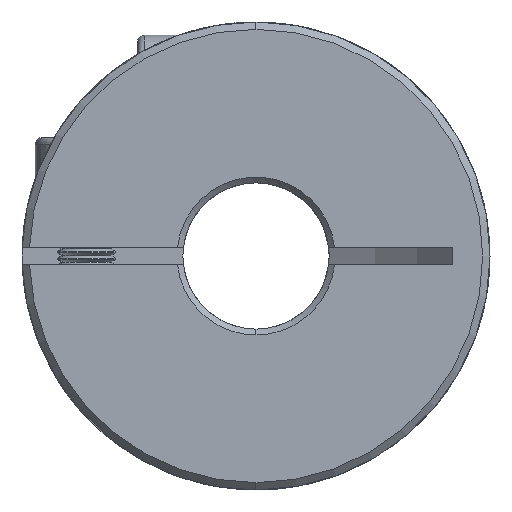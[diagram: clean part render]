
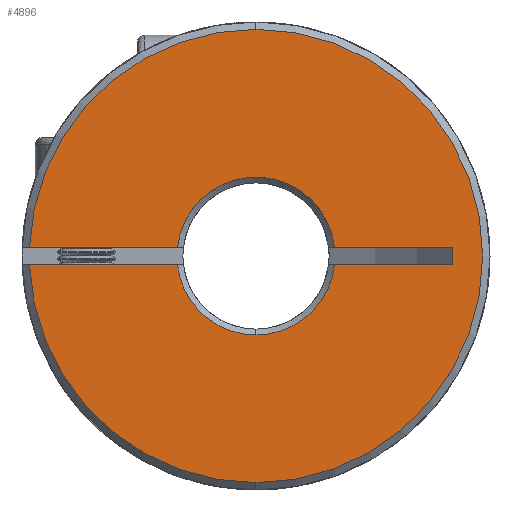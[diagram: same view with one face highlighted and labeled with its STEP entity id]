
A CAD part, front view. The second image highlights one B-rep face of the part: STEP entity #4896.
In plain terms, the highlighted planar face has unit normal (0, -1, 0).
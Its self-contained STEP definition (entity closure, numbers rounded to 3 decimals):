
#16 = VECTOR ( 'NONE', #7219, 1000. ) ;
#29 = CIRCLE ( 'NONE', #2571, 15.5 ) ;
#30 = AXIS2_PLACEMENT_3D ( 'NONE', #6362, #10645, #294 ) ;
#65 = AXIS2_PLACEMENT_3D ( 'NONE', #6336, #3868, #2842 ) ;
#294 = DIRECTION ( 'NONE',  ( 0., 0., 1. ) ) ;
#360 = LINE ( 'NONE', #8693, #3618 ) ;
#400 = DIRECTION ( 'NONE',  ( 1., 0., 0. ) ) ;
#563 = ORIENTED_EDGE ( 'NONE', *, *, #1531, .T. ) ;
#774 = VERTEX_POINT ( 'NONE', #5337 ) ;
#1261 = EDGE_CURVE ( 'NONE', #8618, #774, #6376, .T. ) ;
#1324 = CARTESIAN_POINT ( 'NONE',  ( 5.367, 0., -0.6 ) ) ;
#1353 = CARTESIAN_POINT ( 'NONE',  ( 0., 0., -5.4 ) ) ;
#1389 = AXIS2_PLACEMENT_3D ( 'NONE', #9679, #4510, #3635 ) ;
#1455 = CARTESIAN_POINT ( 'NONE',  ( -15.488, 0., 0.6 ) ) ;
#1520 = EDGE_CURVE ( 'NONE', #3501, #4238, #5464, .T. ) ;
#1531 = EDGE_CURVE ( 'NONE', #6320, #2306, #29, .T. ) ;
#1733 = VERTEX_POINT ( 'NONE', #9352 ) ;
#1826 = DIRECTION ( 'NONE',  ( 0., 1., 0. ) ) ;
#2306 = VERTEX_POINT ( 'NONE', #8651 ) ;
#2344 = VERTEX_POINT ( 'NONE', #10467 ) ;
#2453 = DIRECTION ( 'NONE',  ( 0., 0., 1. ) ) ;
#2558 = EDGE_CURVE ( 'NONE', #9664, #3501, #7881, .T. ) ;
#2571 = AXIS2_PLACEMENT_3D ( 'NONE', #7522, #3279, #2453 ) ;
#2842 = DIRECTION ( 'NONE',  ( 0., 0., 1. ) ) ;
#2874 = EDGE_CURVE ( 'NONE', #10779, #2344, #360, .T. ) ;
#3000 = LINE ( 'NONE', #10714, #16 ) ;
#3058 = ORIENTED_EDGE ( 'NONE', *, *, #2874, .F. ) ;
#3104 = ORIENTED_EDGE ( 'NONE', *, *, #11048, .F. ) ;
#3279 = DIRECTION ( 'NONE',  ( 0., -1., 0. ) ) ;
#3288 = CARTESIAN_POINT ( 'NONE',  ( 0., 0., 0. ) ) ;
#3501 = VERTEX_POINT ( 'NONE', #5680 ) ;
#3521 = AXIS2_PLACEMENT_3D ( 'NONE', #3288, #8343, #11037 ) ;
#3618 = VECTOR ( 'NONE', #8733, 1000. ) ;
#3635 = DIRECTION ( 'NONE',  ( 0., 0., 1. ) ) ;
#3868 = DIRECTION ( 'NONE',  ( 0., 1., 0. ) ) ;
#4069 = CARTESIAN_POINT ( 'NONE',  ( -50., 0., 0.6 ) ) ;
#4238 = VERTEX_POINT ( 'NONE', #6479 ) ;
#4391 = DIRECTION ( 'NONE',  ( 0., 0., 1. ) ) ;
#4481 = ORIENTED_EDGE ( 'NONE', *, *, #1261, .T. ) ;
#4510 = DIRECTION ( 'NONE',  ( 0., -1., 0. ) ) ;
#4630 = DIRECTION ( 'NONE',  ( 1., 0., 0. ) ) ;
#4787 = FACE_OUTER_BOUND ( 'NONE', #5832, .T. ) ;
#4896 = ADVANCED_FACE ( 'NONE', ( #4787 ), #7862, .F. ) ;
#4991 = CARTESIAN_POINT ( 'NONE',  ( 0., 0., 0. ) ) ;
#5057 = DIRECTION ( 'NONE',  ( 1., 0., 0. ) ) ;
#5337 = CARTESIAN_POINT ( 'NONE',  ( -5.367, 0., -0.6 ) ) ;
#5464 = LINE ( 'NONE', #4069, #9192 ) ;
#5519 = ORIENTED_EDGE ( 'NONE', *, *, #6725, .T. ) ;
#5665 = VECTOR ( 'NONE', #400, 1000. ) ;
#5680 = CARTESIAN_POINT ( 'NONE',  ( 5.367, 0., 0.6 ) ) ;
#5822 = VERTEX_POINT ( 'NONE', #1455 ) ;
#5832 = EDGE_LOOP ( 'NONE', ( #3104, #10133, #563, #10105, #8243, #8864, #9418, #5519, #3058, #6996, #4481 ) ) ;
#5933 = AXIS2_PLACEMENT_3D ( 'NONE', #6999, #1826, #4391 ) ;
#6106 = EDGE_CURVE ( 'NONE', #10779, #8618, #6365, .T. ) ;
#6189 = AXIS2_PLACEMENT_3D ( 'NONE', #4991, #8268, #6708 ) ;
#6320 = VERTEX_POINT ( 'NONE', #8269 ) ;
#6336 = CARTESIAN_POINT ( 'NONE',  ( 0., 0., 0. ) ) ;
#6362 = CARTESIAN_POINT ( 'NONE',  ( 0., 0., 0. ) ) ;
#6365 = CIRCLE ( 'NONE', #65, 5.4 ) ;
#6376 = CIRCLE ( 'NONE', #30, 5.4 ) ;
#6479 = CARTESIAN_POINT ( 'NONE',  ( 13.436, 0., 0.6 ) ) ;
#6708 = DIRECTION ( 'NONE',  ( 0., 0., 1. ) ) ;
#6725 = EDGE_CURVE ( 'NONE', #4238, #2344, #3000, .T. ) ;
#6996 = ORIENTED_EDGE ( 'NONE', *, *, #6106, .T. ) ;
#6999 = CARTESIAN_POINT ( 'NONE',  ( -50., 0., -18.413 ) ) ;
#7219 = DIRECTION ( 'NONE',  ( 0., 0., -1. ) ) ;
#7252 = CARTESIAN_POINT ( 'NONE',  ( -50., 0., -0.6 ) ) ;
#7370 = EDGE_CURVE ( 'NONE', #5822, #9664, #9021, .T. ) ;
#7406 = CIRCLE ( 'NONE', #1389, 15.5 ) ;
#7522 = CARTESIAN_POINT ( 'NONE',  ( 0., 0., 0. ) ) ;
#7862 = PLANE ( 'NONE',  #5933 ) ;
#7881 = CIRCLE ( 'NONE', #6189, 5.4 ) ;
#8036 = CIRCLE ( 'NONE', #3521, 15.5 ) ;
#8213 = VECTOR ( 'NONE', #4630, 1000. ) ;
#8243 = ORIENTED_EDGE ( 'NONE', *, *, #7370, .T. ) ;
#8268 = DIRECTION ( 'NONE',  ( 0., 1., 0. ) ) ;
#8269 = CARTESIAN_POINT ( 'NONE',  ( 0., 0., -15.5 ) ) ;
#8343 = DIRECTION ( 'NONE',  ( 0., -1., 0. ) ) ;
#8356 = EDGE_CURVE ( 'NONE', #1733, #6320, #7406, .T. ) ;
#8395 = CARTESIAN_POINT ( 'NONE',  ( -5.367, 0., 0.6 ) ) ;
#8618 = VERTEX_POINT ( 'NONE', #1353 ) ;
#8651 = CARTESIAN_POINT ( 'NONE',  ( 0., 0., 15.5 ) ) ;
#8693 = CARTESIAN_POINT ( 'NONE',  ( -50., 0., -0.6 ) ) ;
#8733 = DIRECTION ( 'NONE',  ( 1., 0., 0. ) ) ;
#8864 = ORIENTED_EDGE ( 'NONE', *, *, #2558, .T. ) ;
#9021 = LINE ( 'NONE', #10513, #8213 ) ;
#9192 = VECTOR ( 'NONE', #5057, 1000. ) ;
#9271 = LINE ( 'NONE', #7252, #5665 ) ;
#9352 = CARTESIAN_POINT ( 'NONE',  ( -15.488, 0., -0.6 ) ) ;
#9418 = ORIENTED_EDGE ( 'NONE', *, *, #1520, .T. ) ;
#9664 = VERTEX_POINT ( 'NONE', #8395 ) ;
#9679 = CARTESIAN_POINT ( 'NONE',  ( 0., 0., 0. ) ) ;
#10105 = ORIENTED_EDGE ( 'NONE', *, *, #10112, .T. ) ;
#10112 = EDGE_CURVE ( 'NONE', #2306, #5822, #8036, .T. ) ;
#10133 = ORIENTED_EDGE ( 'NONE', *, *, #8356, .T. ) ;
#10467 = CARTESIAN_POINT ( 'NONE',  ( 13.436, 0., -0.6 ) ) ;
#10513 = CARTESIAN_POINT ( 'NONE',  ( -50., 0., 0.6 ) ) ;
#10645 = DIRECTION ( 'NONE',  ( 0., 1., 0. ) ) ;
#10714 = CARTESIAN_POINT ( 'NONE',  ( 13.436, 0., -0.6 ) ) ;
#10779 = VERTEX_POINT ( 'NONE', #1324 ) ;
#11037 = DIRECTION ( 'NONE',  ( 0., 0., 1. ) ) ;
#11048 = EDGE_CURVE ( 'NONE', #1733, #774, #9271, .T. ) ;
